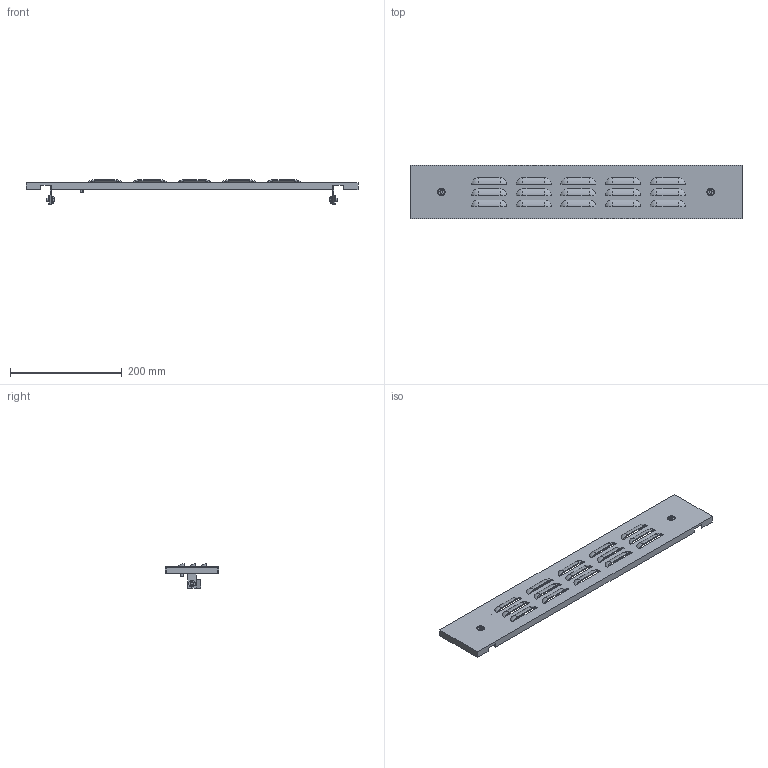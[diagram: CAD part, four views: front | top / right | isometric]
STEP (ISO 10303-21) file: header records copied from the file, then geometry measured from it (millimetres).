
FILE_DESCRIPTION (( 'STEP AP214' ), '1' );
FILE_NAME ('FO-00-PWSV-010-060 Ôàëüø-ïàíåëü âíåøíÿÿ âåíòèëèðóåìàÿ 100õ600 ìì.STEP', '2025-08-21T13:55:38', ( '' ), ( '' ), 'SwSTEP 2.0', 'SolidWorks 2023', '' );
FILE_SCHEMA (( 'AUTOMOTIVE_DESIGN' ));
Length unit declared in the file: millimetre
Products named in the file (1): FO-00-PWSV-010-060 Фальш-панель внешняя вентилируемая 100х600 мм
Bounding box: 595 x 96 x 43.5 mm (x, y, z)
Volume: 179475.9 mm3; surface area: 162984.4 mm2
Topology: 1 solids, 6 shells, 574 faces, 1439 edges, 891 vertices
Faces by surface type: plane 292, cylinder 172, sphere 60, cone 34, torus 16
Entity records: 17446 total; most frequent: CARTESIAN_POINT 3197, DIRECTION 3157, ORIENTED_EDGE 2874, EDGE_CURVE 1437, AXIS2_PLACEMENT_3D 1161, VERTEX_POINT 891, VECTOR 835, LINE 835
